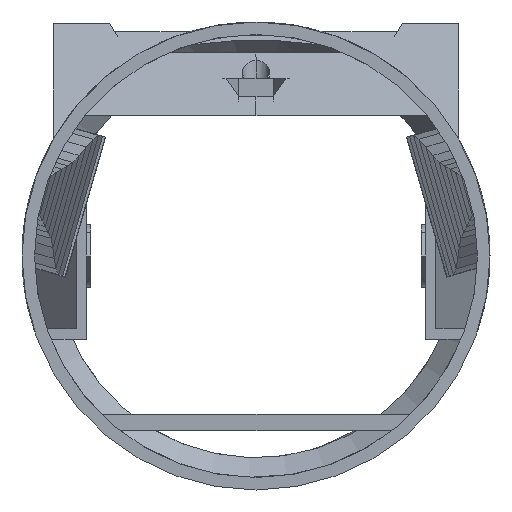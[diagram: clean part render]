
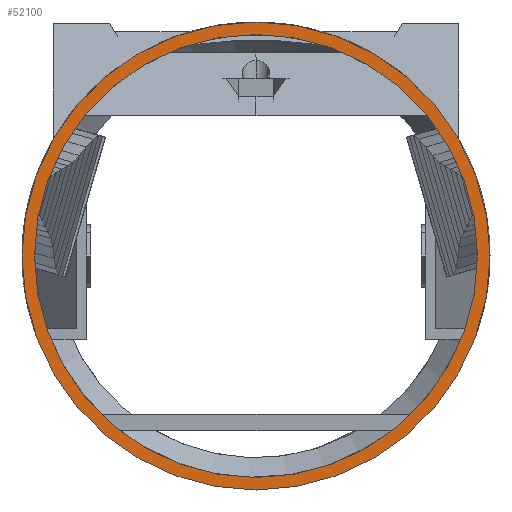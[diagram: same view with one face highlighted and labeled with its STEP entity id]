
A CAD part, left-side view. The second image highlights one B-rep face of the part: STEP entity #52100.
In plain terms, the highlighted planar face has unit normal (-1, 0, 0).
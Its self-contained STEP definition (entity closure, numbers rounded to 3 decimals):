
#22 = VERTEX_POINT('',#23);
#23 = CARTESIAN_POINT('',(235.,21.3,0.));
#32 = CYLINDRICAL_SURFACE('',#33,21.3);
#33 = AXIS2_PLACEMENT_3D('',#34,#35,#36);
#34 = CARTESIAN_POINT('',(47.,0.,0.));
#35 = DIRECTION('',(1.,0.,0.));
#36 = DIRECTION('',(-0.,1.,0.));
#51 = EDGE_CURVE('',#22,#22,#52,.T.);
#52 = SURFACE_CURVE('',#53,(#58,#65),.PCURVE_S1.);
#53 = CIRCLE('',#54,21.3);
#54 = AXIS2_PLACEMENT_3D('',#55,#56,#57);
#55 = CARTESIAN_POINT('',(235.,0.,0.));
#56 = DIRECTION('',(1.,0.,0.));
#57 = DIRECTION('',(-0.,1.,0.));
#58 = PCURVE('',#32,#59);
#59 = DEFINITIONAL_REPRESENTATION('',(#60),#64);
#60 = LINE('',#61,#62);
#61 = CARTESIAN_POINT('',(0.,188.));
#62 = VECTOR('',#63,1.);
#63 = DIRECTION('',(1.,0.));
#64 = ( GEOMETRIC_REPRESENTATION_CONTEXT(2) 
PARAMETRIC_REPRESENTATION_CONTEXT() REPRESENTATION_CONTEXT('2D SPACE',''
  ) );
#65 = PCURVE('',#66,#71);
#66 = PLANE('',#67);
#67 = AXIS2_PLACEMENT_3D('',#68,#69,#70);
#68 = CARTESIAN_POINT('',(235.,-60.,-120.));
#69 = DIRECTION('',(1.,0.,-0.));
#70 = DIRECTION('',(0.,0.,1.));
#71 = DEFINITIONAL_REPRESENTATION('',(#72),#76);
#72 = CIRCLE('',#73,21.3);
#73 = AXIS2_PLACEMENT_2D('',#74,#75);
#74 = CARTESIAN_POINT('',(120.,-60.));
#75 = DIRECTION('',(0.,-1.));
#76 = ( GEOMETRIC_REPRESENTATION_CONTEXT(2) 
PARAMETRIC_REPRESENTATION_CONTEXT() REPRESENTATION_CONTEXT('2D SPACE',''
  ) );
#10581 = CYLINDRICAL_SURFACE('',#10582,22.5);
#10582 = AXIS2_PLACEMENT_3D('',#10583,#10584,#10585);
#10583 = CARTESIAN_POINT('',(47.,0.,0.));
#10584 = DIRECTION('',(1.,0.,0.));
#10585 = DIRECTION('',(-0.,1.,0.));
#11094 = VERTEX_POINT('',#11095);
#11095 = CARTESIAN_POINT('',(235.,22.5,0.));
#11118 = EDGE_CURVE('',#11094,#11094,#11119,.T.);
#11119 = SURFACE_CURVE('',#11120,(#11125,#11132),.PCURVE_S1.);
#11120 = CIRCLE('',#11121,22.5);
#11121 = AXIS2_PLACEMENT_3D('',#11122,#11123,#11124);
#11122 = CARTESIAN_POINT('',(235.,0.,0.));
#11123 = DIRECTION('',(1.,0.,0.));
#11124 = DIRECTION('',(-0.,1.,0.));
#11125 = PCURVE('',#10581,#11126);
#11126 = DEFINITIONAL_REPRESENTATION('',(#11127),#11131);
#11127 = LINE('',#11128,#11129);
#11128 = CARTESIAN_POINT('',(0.,188.));
#11129 = VECTOR('',#11130,1.);
#11130 = DIRECTION('',(1.,0.));
#11131 = ( GEOMETRIC_REPRESENTATION_CONTEXT(2) 
PARAMETRIC_REPRESENTATION_CONTEXT() REPRESENTATION_CONTEXT('2D SPACE',''
  ) );
#11132 = PCURVE('',#66,#11133);
#11133 = DEFINITIONAL_REPRESENTATION('',(#11134),#11138);
#11134 = CIRCLE('',#11135,22.5);
#11135 = AXIS2_PLACEMENT_2D('',#11136,#11137);
#11136 = CARTESIAN_POINT('',(120.,-60.));
#11137 = DIRECTION('',(0.,-1.));
#11138 = ( GEOMETRIC_REPRESENTATION_CONTEXT(2) 
PARAMETRIC_REPRESENTATION_CONTEXT() REPRESENTATION_CONTEXT('2D SPACE',''
  ) );
#52100 = ADVANCED_FACE('',(#52101,#52104),#66,.F.);
#52101 = FACE_BOUND('',#52102,.F.);
#52102 = EDGE_LOOP('',(#52103));
#52103 = ORIENTED_EDGE('',*,*,#11118,.T.);
#52104 = FACE_BOUND('',#52105,.F.);
#52105 = EDGE_LOOP('',(#52106));
#52106 = ORIENTED_EDGE('',*,*,#51,.F.);
